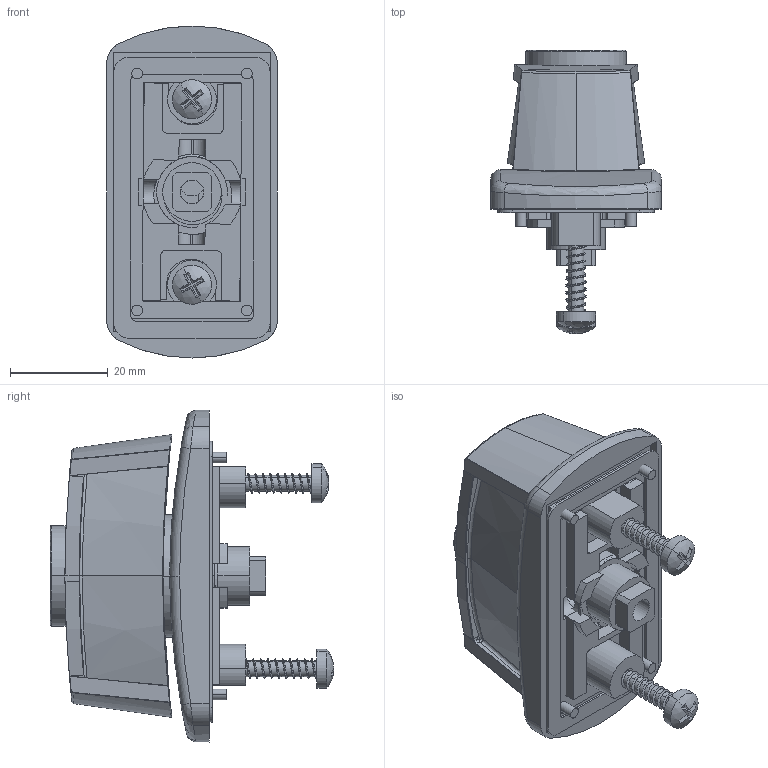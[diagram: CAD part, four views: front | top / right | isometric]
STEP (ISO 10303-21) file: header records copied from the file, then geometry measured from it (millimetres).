
FILE_DESCRIPTION (( 'STEP AP214' ), '1' );
FILE_NAME ('RW 200 M.STEP', '2010-02-26T13:03:20', ( 'Techniczny' ), ( 'RST Roztocze' ), 'SwSTEP 2.0', 'SolidWorks 2010', '' );
FILE_SCHEMA (( 'AUTOMOTIVE_DESIGN' ));
Length unit declared in the file: millimetre
Products named in the file (10): Wkrêt 4,1 x 23; Wk³adka patentowa_Default; 1B. RW200N 00.02; 1B. RW200N 00.05; O-RING 12x2.; 1B. RW200N 00.01; RW 200 M; O-RING 12x2.2; ORING; Z這瞠nie
Assembly tree (10 placements, depth 3):
  RW 200 M
    Z這瞠nie
      1B. RW200N 00.02
      O-RING 12x2.2
      ORING
      1B. RW200N 00.01
      O-RING 12x2.
      Wk³adka patentowa_Default
      1B. RW200N 00.05
    Wkrêt 4,1 x 23  x2
Bounding box: 35 x 58.04 x 68 mm (x, y, z)
Volume: 44577.3 mm3; surface area: 25494.2 mm2
Topology: 9 solids, 9 shells, 525 faces, 1347 edges, 854 vertices
Faces by surface type: cylinder 227, plane 203, bspline 72, cone 10, torus 9, sphere 4
Entity records: 26447 total; most frequent: CARTESIAN_POINT 16053, ORIENTED_EDGE 2286, DIRECTION 1806, EDGE_CURVE 1143, VERTEX_POINT 727, AXIS2_PLACEMENT_3D 654, VECTOR 498, LINE 498
